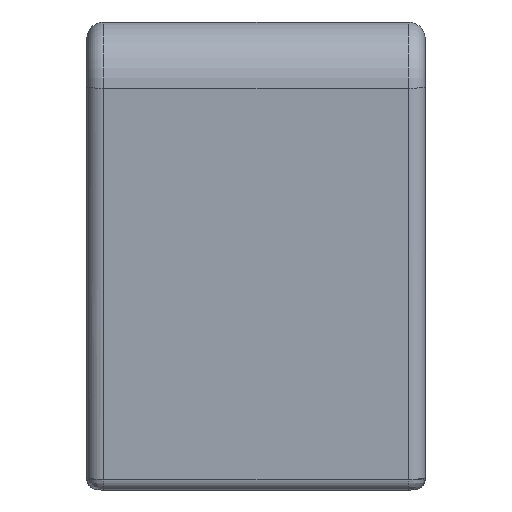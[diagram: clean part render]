
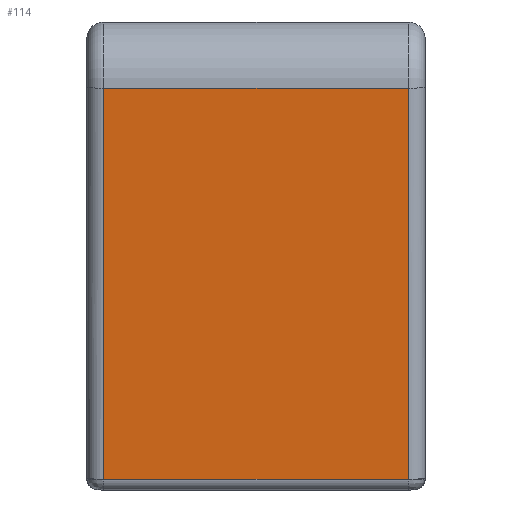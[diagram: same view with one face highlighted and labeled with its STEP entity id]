
A CAD part, left-side view. The second image highlights one B-rep face of the part: STEP entity #114.
In plain terms, the highlighted planar face has unit normal (-0.998, 0, -0.067).
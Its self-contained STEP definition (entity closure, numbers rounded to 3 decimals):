
#114 = ADVANCED_FACE ( 'NONE', ( #1048 ), #2485, .T. ) ;
#370 = EDGE_CURVE ( 'NONE', #3744, #3737, #1825, .T. ) ;
#371 = EDGE_CURVE ( 'NONE', #3737, #3730, #1827, .T. ) ;
#372 = EDGE_CURVE ( 'NONE', #3730, #3734, #1829, .T. ) ;
#373 = EDGE_CURVE ( 'NONE', #3744, #3734, #1831, .T. ) ;
#807 = EDGE_LOOP ( 'NONE', ( #1633, #1634, #1635, #1636 ) ) ;
#1048 = FACE_OUTER_BOUND ( 'NONE', #807, .T. ) ;
#1633 = ORIENTED_EDGE ( 'NONE', *, *, #370, .T. ) ;
#1634 = ORIENTED_EDGE ( 'NONE', *, *, #371, .T. ) ;
#1635 = ORIENTED_EDGE ( 'NONE', *, *, #372, .T. ) ;
#1636 = ORIENTED_EDGE ( 'NONE', *, *, #373, .F. ) ;
#1818 = AXIS2_PLACEMENT_3D ( 'NONE', #2486, #2487, #2488 ) ;
#1825 = LINE ( 'NONE', #3000, #1826 ) ;
#1826 = VECTOR ( 'NONE', #3001, 1000. ) ;
#1827 = LINE ( 'NONE', #3002, #1828 ) ;
#1828 = VECTOR ( 'NONE', #3003, 1000. ) ;
#1829 = LINE ( 'NONE', #3004, #1830 ) ;
#1830 = VECTOR ( 'NONE', #3005, 1000. ) ;
#1831 = LINE ( 'NONE', #3006, #1832 ) ;
#1832 = VECTOR ( 'NONE', #3007, 1000. ) ;
#2485 = PLANE ( 'NONE',  #1818 ) ;
#2486 = CARTESIAN_POINT ( 'NONE',  ( -218., 15., -7. ) ) ;
#2487 = DIRECTION ( 'NONE',  ( -0.998, 0., -0.067 ) ) ;
#2488 = DIRECTION ( 'NONE',  ( -0.067, 0., 0.998 ) ) ;
#3000 = CARTESIAN_POINT ( 'NONE',  ( -218., 13.5, -7. ) ) ;
#3001 = DIRECTION ( 'NONE',  ( 0.067, 0., -0.998 ) ) ;
#3002 = CARTESIAN_POINT ( 'NONE',  ( -218.063, 15., -6.067 ) ) ;
#3003 = DIRECTION ( 'NONE',  ( 0., -1., 0. ) ) ;
#3004 = CARTESIAN_POINT ( 'NONE',  ( -220.388, -13.5, 28.632 ) ) ;
#3005 = DIRECTION ( 'NONE',  ( -0.067, 0., 0.998 ) ) ;
#3006 = CARTESIAN_POINT ( 'NONE',  ( -220.388, 15., 28.632 ) ) ;
#3007 = DIRECTION ( 'NONE',  ( 0., -1., 0. ) ) ;
#3537 = CARTESIAN_POINT ( 'NONE',  ( -218.063, -13.5, -6.067 ) ) ;
#3541 = CARTESIAN_POINT ( 'NONE',  ( -220.388, -13.5, 28.632 ) ) ;
#3544 = CARTESIAN_POINT ( 'NONE',  ( -218.063, 13.5, -6.067 ) ) ;
#3551 = CARTESIAN_POINT ( 'NONE',  ( -220.388, 13.5, 28.632 ) ) ;
#3730 = VERTEX_POINT ( 'NONE', #3537 ) ;
#3734 = VERTEX_POINT ( 'NONE', #3541 ) ;
#3737 = VERTEX_POINT ( 'NONE', #3544 ) ;
#3744 = VERTEX_POINT ( 'NONE', #3551 ) ;
